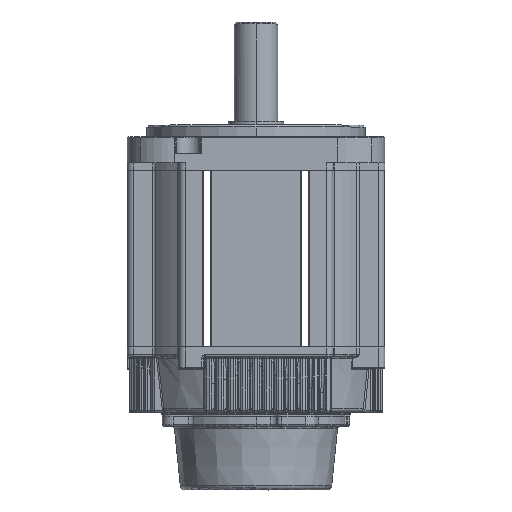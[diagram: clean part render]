
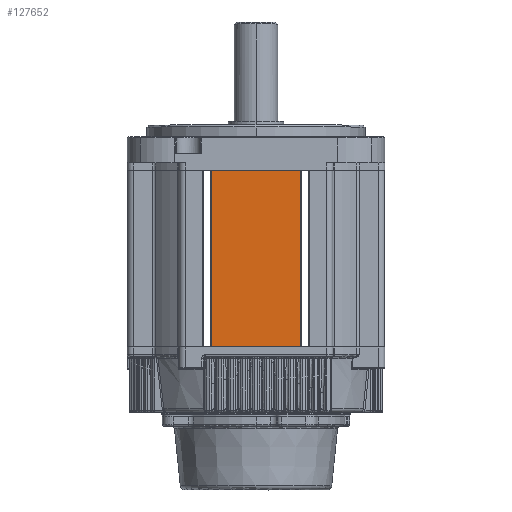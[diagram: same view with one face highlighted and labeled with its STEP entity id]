
A CAD part, top view. The second image highlights one B-rep face of the part: STEP entity #127652.
In plain terms, the highlighted planar face has unit normal (0, 0, 1).
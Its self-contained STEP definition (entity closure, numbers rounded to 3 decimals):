
#3441 = CARTESIAN_POINT ( 'NONE',  ( 12.036, 4., 94.706 ) ) ;
#4431 = VERTEX_POINT ( 'NONE', #18973 ) ;
#6150 = VERTEX_POINT ( 'NONE', #115806 ) ;
#8605 = ORIENTED_EDGE ( 'NONE', *, *, #81586, .T. ) ;
#10363 = LINE ( 'NONE', #31570, #33158 ) ;
#17519 = EDGE_CURVE ( 'NONE', #31875, #6150, #10363, .T. ) ;
#18973 = CARTESIAN_POINT ( 'NONE',  ( 12.036, -85., 94.706 ) ) ;
#31081 = FACE_OUTER_BOUND ( 'NONE', #81916, .T. ) ;
#31570 = CARTESIAN_POINT ( 'NONE',  ( 12.036, 4., 94.706 ) ) ;
#31875 = VERTEX_POINT ( 'NONE', #99900 ) ;
#32086 = LINE ( 'NONE', #53825, #132334 ) ;
#32194 = DIRECTION ( 'NONE',  ( 1., 0., 0. ) ) ;
#33158 = VECTOR ( 'NONE', #82965, 1000. ) ;
#37126 = AXIS2_PLACEMENT_3D ( 'NONE', #130277, #48475, #120307 ) ;
#38323 = ORIENTED_EDGE ( 'NONE', *, *, #17519, .T. ) ;
#43194 = VECTOR ( 'NONE', #128268, 1000. ) ;
#48475 = DIRECTION ( 'NONE',  ( 0., 0., 1. ) ) ;
#53825 = CARTESIAN_POINT ( 'NONE',  ( 12.036, -85., 94.706 ) ) ;
#54232 = VERTEX_POINT ( 'NONE', #83148 ) ;
#63346 = LINE ( 'NONE', #91049, #113569 ) ;
#80221 = EDGE_CURVE ( 'NONE', #54232, #4431, #32086, .T. ) ;
#81586 = EDGE_CURVE ( 'NONE', #4431, #31875, #86861, .T. ) ;
#81916 = EDGE_LOOP ( 'NONE', ( #38323, #132108, #92885, #8605 ) ) ;
#82965 = DIRECTION ( 'NONE',  ( -1., 0., 0. ) ) ;
#83148 = CARTESIAN_POINT ( 'NONE',  ( -32.964, -85., 94.706 ) ) ;
#86861 = LINE ( 'NONE', #3441, #43194 ) ;
#91049 = CARTESIAN_POINT ( 'NONE',  ( -32.964, 4., 94.706 ) ) ;
#91490 = DIRECTION ( 'NONE',  ( 0., -1., 0. ) ) ;
#92885 = ORIENTED_EDGE ( 'NONE', *, *, #80221, .T. ) ;
#99900 = CARTESIAN_POINT ( 'NONE',  ( 12.036, 4., 94.706 ) ) ;
#111962 = EDGE_CURVE ( 'NONE', #6150, #54232, #63346, .T. ) ;
#113569 = VECTOR ( 'NONE', #91490, 1000. ) ;
#115806 = CARTESIAN_POINT ( 'NONE',  ( -32.964, 4., 94.706 ) ) ;
#119858 = PLANE ( 'NONE',  #37126 ) ;
#120307 = DIRECTION ( 'NONE',  ( 1., 0., 0. ) ) ;
#127652 = ADVANCED_FACE ( 'NONE', ( #31081 ), #119858, .T. ) ;
#128268 = DIRECTION ( 'NONE',  ( 0., 1., 0. ) ) ;
#130277 = CARTESIAN_POINT ( 'NONE',  ( 12.036, 4., 94.706 ) ) ;
#132108 = ORIENTED_EDGE ( 'NONE', *, *, #111962, .T. ) ;
#132334 = VECTOR ( 'NONE', #32194, 1000. ) ;
